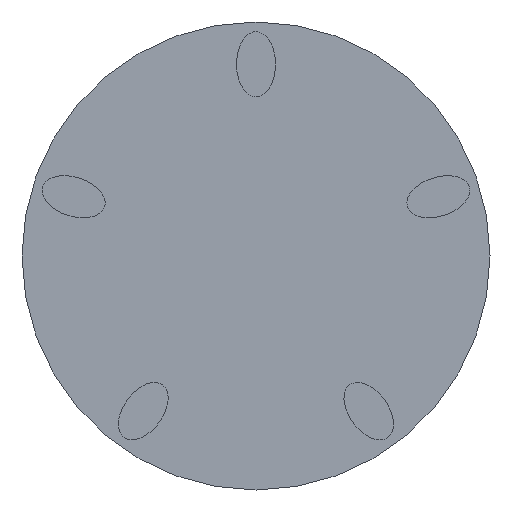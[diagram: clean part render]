
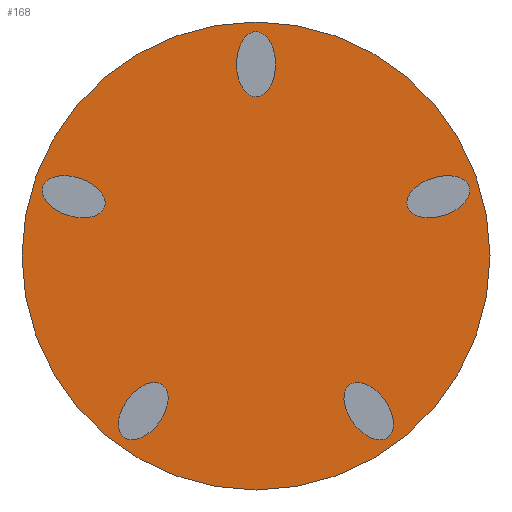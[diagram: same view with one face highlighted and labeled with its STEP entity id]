
A CAD part, front view. The second image highlights one B-rep face of the part: STEP entity #168.
In plain terms, the highlighted planar face has unit normal (0, -1, 0).
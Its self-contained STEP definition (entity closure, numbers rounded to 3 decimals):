
#40 = AXIS2_PLACEMENT_3D ( 'NONE', #101, #652, #358 ) ;
#42 = DIRECTION ( 'NONE',  ( 0., 0., 1. ) ) ;
#97 = FACE_OUTER_BOUND ( 'NONE', #204, .T. ) ;
#101 = CARTESIAN_POINT ( 'NONE',  ( 0., 317.5, 0. ) ) ;
#115 = CARTESIAN_POINT ( 'NONE',  ( 0., 317.5, 457.2 ) ) ;
#140 = PLANE ( 'NONE',  #527 ) ;
#149 = CARTESIAN_POINT ( 'NONE',  ( 0., 317.5, 0. ) ) ;
#168 = ADVANCED_FACE ( 'NONE', ( #97 ), #140, .F. ) ;
#173 = DIRECTION ( 'NONE',  ( 0., 0., 1. ) ) ;
#202 = EDGE_CURVE ( 'NONE', #536, #388, #207, .T. ) ;
#204 = EDGE_LOOP ( 'NONE', ( #252, #343 ) ) ;
#207 = CIRCLE ( 'NONE', #40, 457.2 ) ;
#252 = ORIENTED_EDGE ( 'NONE', *, *, #377, .F. ) ;
#295 = DIRECTION ( 'NONE',  ( 0., 1., 0. ) ) ;
#328 = CARTESIAN_POINT ( 'NONE',  ( 0., 317.5, 0. ) ) ;
#343 = ORIENTED_EDGE ( 'NONE', *, *, #202, .F. ) ;
#358 = DIRECTION ( 'NONE',  ( 0., 0., 1. ) ) ;
#372 = AXIS2_PLACEMENT_3D ( 'NONE', #328, #479, #173 ) ;
#377 = EDGE_CURVE ( 'NONE', #388, #536, #384, .T. ) ;
#384 = CIRCLE ( 'NONE', #372, 457.2 ) ;
#388 = VERTEX_POINT ( 'NONE', #627 ) ;
#479 = DIRECTION ( 'NONE',  ( 0., 1., 0. ) ) ;
#527 = AXIS2_PLACEMENT_3D ( 'NONE', #149, #295, #42 ) ;
#536 = VERTEX_POINT ( 'NONE', #115 ) ;
#627 = CARTESIAN_POINT ( 'NONE',  ( 0., 317.5, -457.2 ) ) ;
#652 = DIRECTION ( 'NONE',  ( 0., 1., 0. ) ) ;
